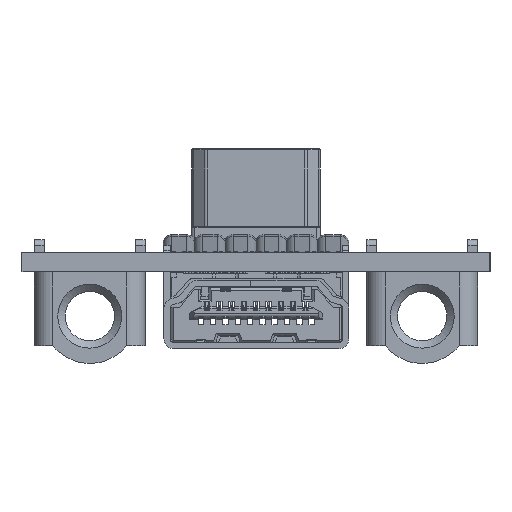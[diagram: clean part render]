
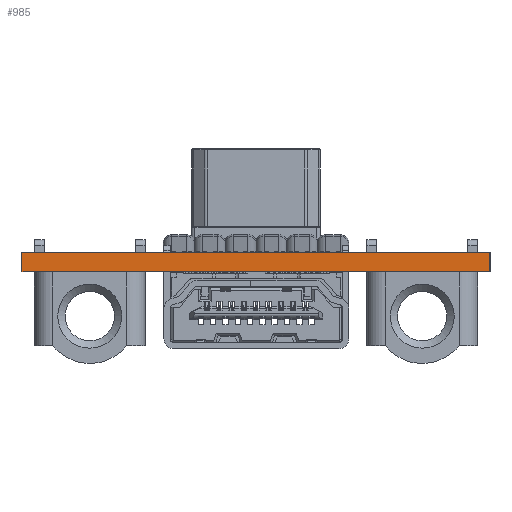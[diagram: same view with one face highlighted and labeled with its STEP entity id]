
A CAD part, front view. The second image highlights one B-rep face of the part: STEP entity #985.
In plain terms, the highlighted planar face has unit normal (0, -1, 0).
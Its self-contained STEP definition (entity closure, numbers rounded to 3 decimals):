
#69 = EDGE_CURVE('',#70,#72,#74,.T.);
#70 = VERTEX_POINT('',#71);
#71 = CARTESIAN_POINT('',(-8.426,-2.003,0.));
#72 = VERTEX_POINT('',#73);
#73 = CARTESIAN_POINT('',(-8.426,-2.003,1.6));
#74 = LINE('',#75,#76);
#75 = CARTESIAN_POINT('',(-8.426,-2.003,0.));
#76 = VECTOR('',#77,1.);
#77 = DIRECTION('',(0.,0.,1.));
#960 = VERTEX_POINT('',#961);
#961 = CARTESIAN_POINT('',(29.576,-2.005,1.6));
#967 = EDGE_CURVE('',#968,#960,#970,.T.);
#968 = VERTEX_POINT('',#969);
#969 = CARTESIAN_POINT('',(29.576,-2.005,0.));
#970 = LINE('',#971,#972);
#971 = CARTESIAN_POINT('',(29.576,-2.005,0.));
#972 = VECTOR('',#973,1.);
#973 = DIRECTION('',(0.,0.,1.));
#985 = ADVANCED_FACE('',(#986),#1002,.T.);
#986 = FACE_BOUND('',#987,.T.);
#987 = EDGE_LOOP('',(#988,#989,#995,#996));
#988 = ORIENTED_EDGE('',*,*,#967,.T.);
#989 = ORIENTED_EDGE('',*,*,#990,.T.);
#990 = EDGE_CURVE('',#960,#72,#991,.T.);
#991 = LINE('',#992,#993);
#992 = CARTESIAN_POINT('',(29.576,-2.005,1.6));
#993 = VECTOR('',#994,1.);
#994 = DIRECTION('',(-1.,0.,0.));
#995 = ORIENTED_EDGE('',*,*,#69,.F.);
#996 = ORIENTED_EDGE('',*,*,#997,.F.);
#997 = EDGE_CURVE('',#968,#70,#998,.T.);
#998 = LINE('',#999,#1000);
#999 = CARTESIAN_POINT('',(29.576,-2.005,0.));
#1000 = VECTOR('',#1001,1.);
#1001 = DIRECTION('',(-1.,0.,0.));
#1002 = PLANE('',#1003);
#1003 = AXIS2_PLACEMENT_3D('',#1004,#1005,#1006);
#1004 = CARTESIAN_POINT('',(29.576,-2.005,0.));
#1005 = DIRECTION('',(0.,-1.,0.));
#1006 = DIRECTION('',(-1.,0.,0.));
